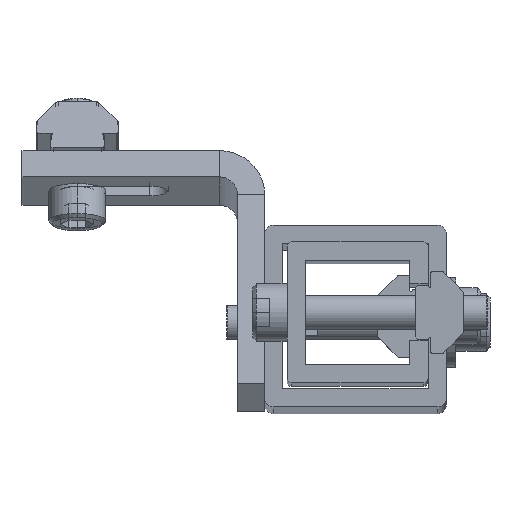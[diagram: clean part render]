
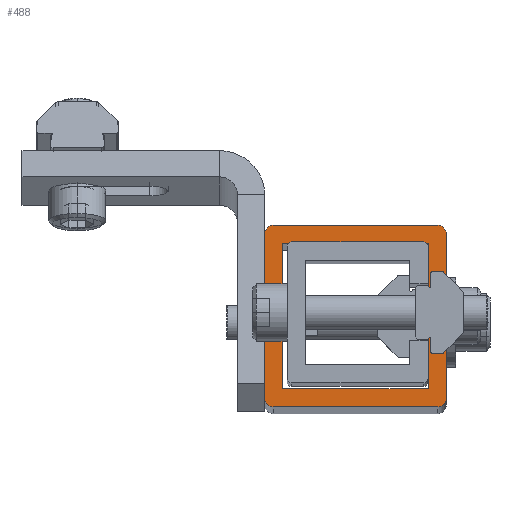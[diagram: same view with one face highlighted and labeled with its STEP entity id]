
A CAD part, top view. The second image highlights one B-rep face of the part: STEP entity #488.
In plain terms, the highlighted planar face has unit normal (0, 0, 1).
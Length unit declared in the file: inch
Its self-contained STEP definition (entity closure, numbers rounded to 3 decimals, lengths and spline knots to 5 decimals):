
#89=DIRECTION('',(1.,0.,0.));
#90=VECTOR('',#89,1.);
#91=CARTESIAN_POINT('',(-0.5,0.5,26.5));
#92=LINE('',#91,#90);
#93=DIRECTION('',(0.,1.,0.));
#94=VECTOR('',#93,1.);
#95=CARTESIAN_POINT('',(-0.5,-0.5,26.5));
#96=LINE('',#95,#94);
#97=DIRECTION('',(-1.,0.,0.));
#98=VECTOR('',#97,1.);
#99=CARTESIAN_POINT('',(0.5,-0.5,26.5));
#100=LINE('',#99,#98);
#101=DIRECTION('',(0.,-1.,0.));
#102=VECTOR('',#101,1.);
#103=CARTESIAN_POINT('',(0.5,0.5,26.5));
#104=LINE('',#103,#102);
#105=DIRECTION('',(0.,1.,0.));
#106=VECTOR('',#105,1.13);
#107=CARTESIAN_POINT('',(0.625,-0.565,26.5));
#108=LINE('',#107,#106);
#109=DIRECTION('',(1.,0.,0.));
#110=VECTOR('',#109,1.13);
#111=CARTESIAN_POINT('',(-0.565,-0.625,26.5));
#112=LINE('',#111,#110);
#113=DIRECTION('',(0.,-1.,0.));
#114=VECTOR('',#113,1.13);
#115=CARTESIAN_POINT('',(-0.625,0.565,26.5));
#116=LINE('',#115,#114);
#117=DIRECTION('',(-1.,0.,0.));
#118=VECTOR('',#117,1.13);
#119=CARTESIAN_POINT('',(0.565,0.625,26.5));
#120=LINE('',#119,#118);
#134=CARTESIAN_POINT('',(0.565,0.565,26.5));
#135=DIRECTION('',(0.,0.,1.));
#136=DIRECTION('',(1.,0.,0.));
#137=AXIS2_PLACEMENT_3D('',#134,#135,#136);
#152=CARTESIAN_POINT('',(-0.565,0.565,26.5));
#153=DIRECTION('',(0.,0.,1.));
#154=DIRECTION('',(0.,1.,0.));
#155=AXIS2_PLACEMENT_3D('',#152,#153,#154);
#242=CARTESIAN_POINT('',(0.565,-0.565,26.5));
#243=DIRECTION('',(0.,0.,1.));
#244=DIRECTION('',(0.,-1.,0.));
#245=AXIS2_PLACEMENT_3D('',#242,#243,#244);
#260=CARTESIAN_POINT('',(-0.565,-0.565,26.5));
#261=DIRECTION('',(0.,0.,1.));
#262=DIRECTION('',(-1.,0.,0.));
#263=AXIS2_PLACEMENT_3D('',#260,#261,#262);
#273=CARTESIAN_POINT('',(-0.5,0.5,26.5));
#274=CARTESIAN_POINT('',(0.5,0.5,26.5));
#275=VERTEX_POINT('',#273);
#276=VERTEX_POINT('',#274);
#277=CARTESIAN_POINT('',(0.5,-0.5,26.5));
#278=VERTEX_POINT('',#277);
#279=CARTESIAN_POINT('',(-0.5,-0.5,26.5));
#280=VERTEX_POINT('',#279);
#313=CARTESIAN_POINT('',(0.565,0.625,26.5));
#315=VERTEX_POINT('',#313);
#319=CARTESIAN_POINT('',(0.625,0.565,26.5));
#320=VERTEX_POINT('',#319);
#321=CARTESIAN_POINT('',(0.625,-0.565,26.5));
#323=VERTEX_POINT('',#321);
#327=CARTESIAN_POINT('',(0.565,-0.625,26.5));
#328=VERTEX_POINT('',#327);
#329=CARTESIAN_POINT('',(-0.565,-0.625,26.5));
#331=VERTEX_POINT('',#329);
#335=CARTESIAN_POINT('',(-0.625,-0.565,26.5));
#336=VERTEX_POINT('',#335);
#337=CARTESIAN_POINT('',(-0.625,0.565,26.5));
#339=VERTEX_POINT('',#337);
#343=CARTESIAN_POINT('',(-0.565,0.625,26.5));
#344=VERTEX_POINT('',#343);
#459=CARTESIAN_POINT('',(0.,0.,26.5));
#460=DIRECTION('',(0.,0.,1.));
#461=DIRECTION('',(1.,0.,0.));
#462=AXIS2_PLACEMENT_3D('',#459,#460,#461);
#463=PLANE('',#462);
#465=ORIENTED_EDGE('',*,*,#464,.F.);
#467=ORIENTED_EDGE('',*,*,#466,.F.);
#469=ORIENTED_EDGE('',*,*,#468,.F.);
#471=ORIENTED_EDGE('',*,*,#470,.F.);
#473=ORIENTED_EDGE('',*,*,#472,.F.);
#475=ORIENTED_EDGE('',*,*,#474,.F.);
#477=ORIENTED_EDGE('',*,*,#476,.F.);
#479=ORIENTED_EDGE('',*,*,#478,.F.);
#480=EDGE_LOOP('',(#465,#467,#469,#471,#473,#475,#477,#479));
#481=FACE_OUTER_BOUND('',#480,.F.);
#482=ORIENTED_EDGE('',*,*,#387,.F.);
#483=ORIENTED_EDGE('',*,*,#402,.F.);
#484=ORIENTED_EDGE('',*,*,#428,.F.);
#485=ORIENTED_EDGE('',*,*,#441,.F.);
#486=EDGE_LOOP('',(#482,#483,#484,#485));
#487=FACE_BOUND('',#486,.F.);
#138=CIRCLE('',#137,0.06);
#156=CIRCLE('',#155,0.06);
#246=CIRCLE('',#245,0.06);
#264=CIRCLE('',#263,0.06);
#387=EDGE_CURVE('',#275,#276,#92,.T.);
#402=EDGE_CURVE('',#280,#275,#96,.T.);
#428=EDGE_CURVE('',#278,#280,#100,.T.);
#441=EDGE_CURVE('',#276,#278,#104,.T.);
#464=EDGE_CURVE('',#320,#315,#138,.T.);
#466=EDGE_CURVE('',#323,#320,#108,.T.);
#468=EDGE_CURVE('',#328,#323,#246,.T.);
#470=EDGE_CURVE('',#331,#328,#112,.T.);
#472=EDGE_CURVE('',#336,#331,#264,.T.);
#474=EDGE_CURVE('',#339,#336,#116,.T.);
#476=EDGE_CURVE('',#344,#339,#156,.T.);
#478=EDGE_CURVE('',#315,#344,#120,.T.);
#488=ADVANCED_FACE('',(#481,#487),#463,.T.);
